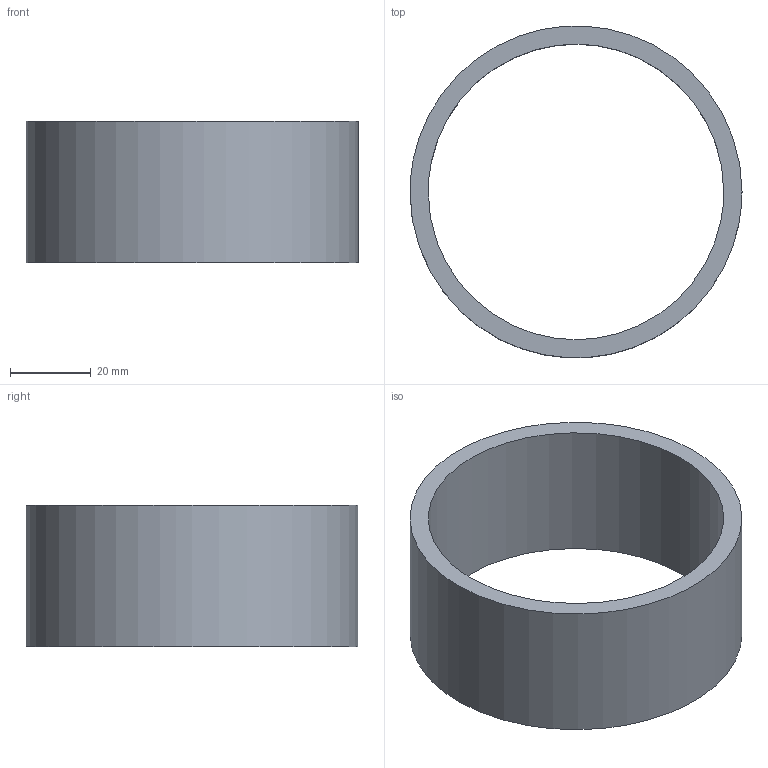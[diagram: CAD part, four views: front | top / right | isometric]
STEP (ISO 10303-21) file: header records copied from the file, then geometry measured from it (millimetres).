
FILE_DESCRIPTION(('Base splice and hand/dowel native rebuild. P1 head/arm retained as imported base geometry.'),'2;1');
FILE_NAME('L_ROUND_YAW_COLLAR_TRIAL.step','',(''),(''),'SolidCraft','SolidCraft','');
FILE_SCHEMA(('AP242_MANAGED_MODEL_BASED_3D_ENGINEERING_MIM_LF { 1 0 10303 442 1 1 4 }'));
Length unit declared in the file: millimetre
Products named in the file (1): L_ROUND_YAW_COLLAR_TRIAL
Bounding box: 82 x 81.87 x 35 mm (x, y, z)
Volume: 38365.1 mm3; surface area: 19237.5 mm2
Topology: 1 solids, 1 shells, 4 faces, 10 edges, 8 vertices
Faces by surface type: cylinder 2, plane 2
Full cylindrical faces by diameter (mm): 73 x1, 82 x1
Entity records: 131 total; most frequent: CARTESIAN_POINT 36, ORIENTED_EDGE 20, EDGE_CURVE 10, VERTEX_POINT 8, EDGE_LOOP 6, FACE_BOUND 6, AXIS2_PLACEMENT_3D 5, DIRECTION 4
